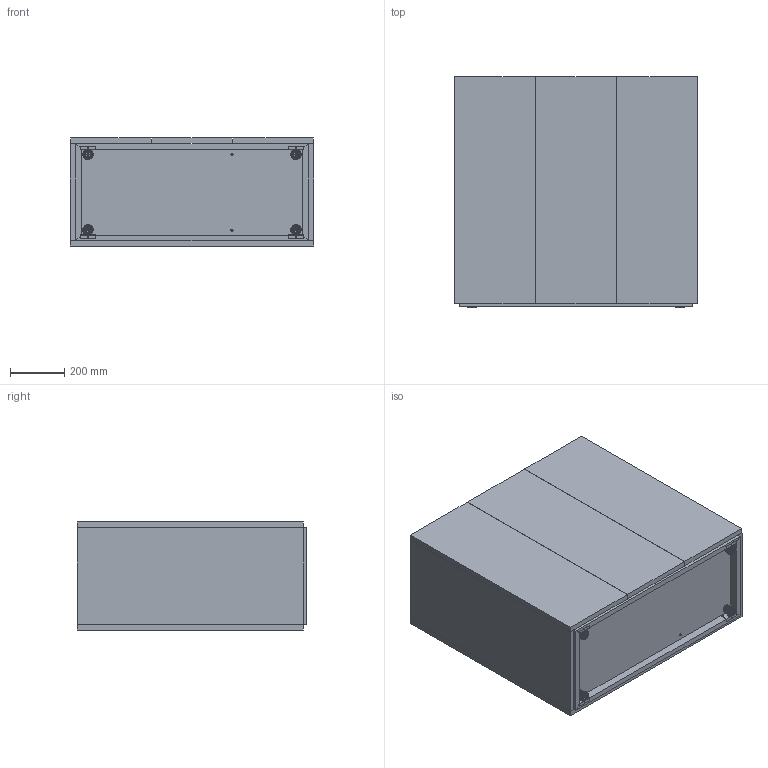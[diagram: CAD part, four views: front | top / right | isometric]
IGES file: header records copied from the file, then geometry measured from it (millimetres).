
Start section: SolidWorks IGES file using analytic representation for surfaces
Global section: file name: C:\DOCUMENTI_UT\030_PRODUZIONE MAKRO\SW\MOBILI_LAVABO\MODULO30\ASSIEMI\TOP TECH LATERALE\MODULO30_90\MODULO30_90_3ANTE_MOBILE_LAVABODX_ISOLA.IGS; native system: SolidWorks 2012; preprocessor: SolidWorks 2012; author: TECNICO; date: 160519.090657; units: millimetre
Bounding box: 900 x 851.15 x 400 mm (x, y, z)
Surface area: 5640976 mm2 (no closed solid volume)
Topology: 0 solids, 0 shells, 365 faces, 5982 edges, 5970 vertices
Faces by surface type: bspline 203, revolution 162
